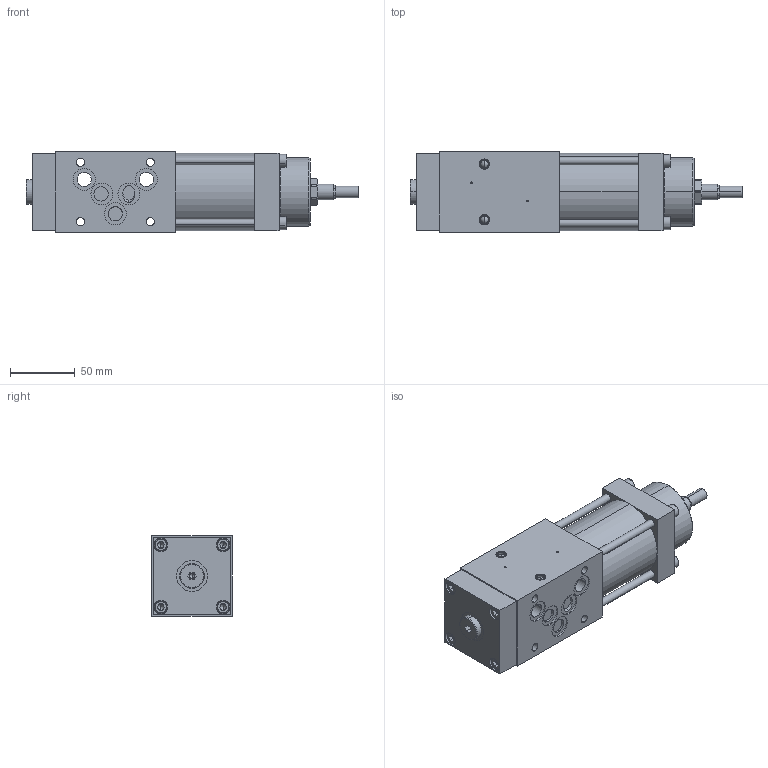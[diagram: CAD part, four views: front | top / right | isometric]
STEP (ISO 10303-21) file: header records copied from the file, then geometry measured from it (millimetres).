
FILE_DESCRIPTION (( 'STEP AP214' ), '1' );
FILE_NAME ('ADRVdA10.STEP', '2017-03-22T13:43:41', ( '' ), ( '' ), 'SwSTEP 2.0', 'SolidWorks 2016', '' );
FILE_SCHEMA (( 'AUTOMOTIVE_DESIGN' ));
Length unit declared in the file: millimetre
Products named in the file (1): ADRVdA10
Bounding box: 256.5 x 62 x 62 mm (x, y, z)
Volume: 685949.3 mm3; surface area: 108206.1 mm2
Topology: 12 solids, 15 shells, 532 faces, 1159 edges, 702 vertices
Faces by surface type: plane 218, cylinder 179, cone 83, torus 48, sphere 4
Entity records: 20404 total; most frequent: CARTESIAN_POINT 2752, DIRECTION 2689, ORIENTED_EDGE 2270, EDGE_CURVE 1135, AXIS2_PLACEMENT_3D 1083, VERTEX_POINT 702, EDGE_LOOP 637, CIRCLE 550
